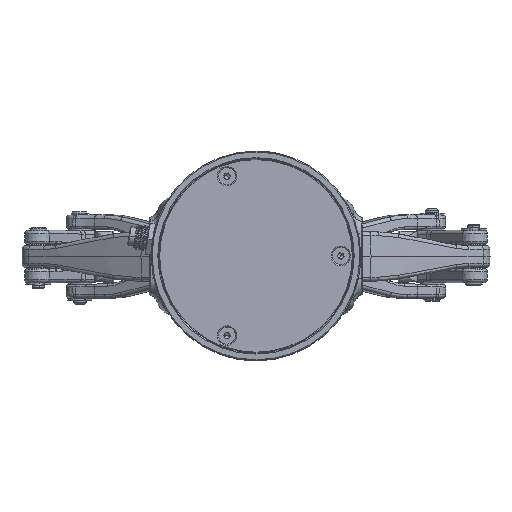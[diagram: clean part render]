
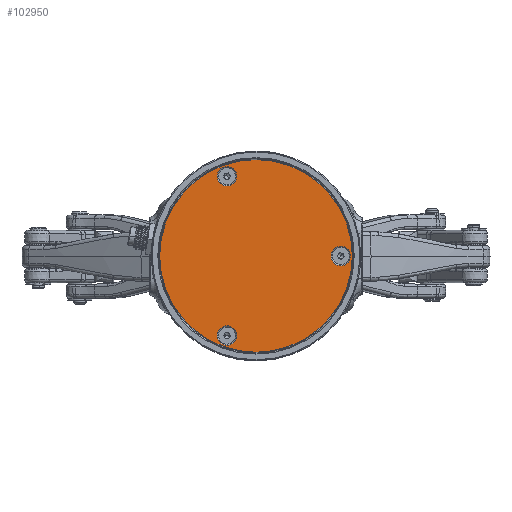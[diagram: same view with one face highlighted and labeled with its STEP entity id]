
A CAD part, top view. The second image highlights one B-rep face of the part: STEP entity #102950.
In plain terms, the highlighted planar face has unit normal (0, 0, 1) as drawn and (0, 1, 0) by its records, which use the part's own axes.
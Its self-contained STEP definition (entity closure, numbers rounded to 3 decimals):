
#102683=CARTESIAN_POINT('',(0.,1.8,0.));
#102684=DIRECTION('',(0.,1.,0.));
#102685=DIRECTION('',(0.,0.,-1.));
#102686=AXIS2_PLACEMENT_3D('',#102683,#102684,#102685);
#102688=CARTESIAN_POINT('',(0.,1.8,0.));
#102689=DIRECTION('',(0.,1.,0.));
#102690=DIRECTION('',(0.,0.,1.));
#102691=AXIS2_PLACEMENT_3D('',#102688,#102689,#102690);
#102693=CARTESIAN_POINT('',(-27.5,1.8,0.));
#102694=DIRECTION('',(0.,-1.,0.));
#102695=DIRECTION('',(0.,0.,-1.));
#102696=AXIS2_PLACEMENT_3D('',#102693,#102694,#102695);
#102698=CARTESIAN_POINT('',(-27.5,1.8,0.));
#102699=DIRECTION('',(0.,-1.,0.));
#102700=DIRECTION('',(0.,0.,1.));
#102701=AXIS2_PLACEMENT_3D('',#102698,#102699,#102700);
#102703=CARTESIAN_POINT('',(9.406,1.8,25.842));
#102704=DIRECTION('',(0.,-1.,0.));
#102705=DIRECTION('',(0.,0.,-1.));
#102706=AXIS2_PLACEMENT_3D('',#102703,#102704,#102705);
#102708=CARTESIAN_POINT('',(9.406,1.8,25.842));
#102709=DIRECTION('',(0.,-1.,0.));
#102710=DIRECTION('',(0.,0.,1.));
#102711=AXIS2_PLACEMENT_3D('',#102708,#102709,#102710);
#102713=CARTESIAN_POINT('',(9.406,1.8,-25.842));
#102714=DIRECTION('',(0.,-1.,0.));
#102715=DIRECTION('',(0.,0.,-1.));
#102716=AXIS2_PLACEMENT_3D('',#102713,#102714,#102715);
#102718=CARTESIAN_POINT('',(9.406,1.8,-25.842));
#102719=DIRECTION('',(0.,-1.,0.));
#102720=DIRECTION('',(0.,0.,1.));
#102721=AXIS2_PLACEMENT_3D('',#102718,#102719,#102720);
#102791=CARTESIAN_POINT('',(9.406,1.8,22.692));
#102792=VERTEX_POINT('',#102791);
#102795=CARTESIAN_POINT('',(0.,1.8,31.25));
#102796=CARTESIAN_POINT('',(0.,1.8,-31.25));
#102797=VERTEX_POINT('',#102795);
#102798=VERTEX_POINT('',#102796);
#102801=CARTESIAN_POINT('',(9.406,1.8,-22.692));
#102802=CARTESIAN_POINT('',(9.406,1.8,-28.992));
#102803=VERTEX_POINT('',#102801);
#102804=VERTEX_POINT('',#102802);
#102805=CARTESIAN_POINT('',(9.406,1.8,28.992));
#102806=VERTEX_POINT('',#102805);
#102811=CARTESIAN_POINT('',(-27.5,1.8,3.15));
#102812=CARTESIAN_POINT('',(-27.5,1.8,-3.15));
#102813=VERTEX_POINT('',#102811);
#102814=VERTEX_POINT('',#102812);
#102925=CARTESIAN_POINT('',(0.,1.8,0.));
#102926=DIRECTION('',(0.,1.,0.));
#102927=DIRECTION('',(0.,0.,1.));
#102928=AXIS2_PLACEMENT_3D('',#102925,#102926,#102927);
#102929=PLANE('',#102928);
#102930=ORIENTED_EDGE('',*,*,#102907,.F.);
#102931=ORIENTED_EDGE('',*,*,#102917,.F.);
#102932=EDGE_LOOP('',(#102930,#102931));
#102933=FACE_OUTER_BOUND('',#102932,.F.);
#102935=ORIENTED_EDGE('',*,*,#102934,.F.);
#102937=ORIENTED_EDGE('',*,*,#102936,.F.);
#102938=EDGE_LOOP('',(#102935,#102937));
#102939=FACE_BOUND('',#102938,.F.);
#102940=ORIENTED_EDGE('',*,*,#102830,.F.);
#102941=ORIENTED_EDGE('',*,*,#102847,.F.);
#102942=EDGE_LOOP('',(#102940,#102941));
#102943=FACE_BOUND('',#102942,.F.);
#102945=ORIENTED_EDGE('',*,*,#102944,.F.);
#102947=ORIENTED_EDGE('',*,*,#102946,.F.);
#102948=EDGE_LOOP('',(#102945,#102947));
#102949=FACE_BOUND('',#102948,.F.);
#102950=ADVANCED_FACE('',(#102933,#102939,#102943,#102949),#102929,.T.);
#102687=CIRCLE('',#102686,31.25);
#102692=CIRCLE('',#102691,31.25);
#102697=CIRCLE('',#102696,3.15);
#102702=CIRCLE('',#102701,3.15);
#102707=CIRCLE('',#102706,3.15);
#102712=CIRCLE('',#102711,3.15);
#102717=CIRCLE('',#102716,3.15);
#102722=CIRCLE('',#102721,3.15);
#102830=EDGE_CURVE('',#102792,#102806,#102707,.T.);
#102847=EDGE_CURVE('',#102806,#102792,#102712,.T.);
#102907=EDGE_CURVE('',#102798,#102797,#102687,.T.);
#102917=EDGE_CURVE('',#102797,#102798,#102692,.T.);
#102934=EDGE_CURVE('',#102814,#102813,#102697,.T.);
#102936=EDGE_CURVE('',#102813,#102814,#102702,.T.);
#102944=EDGE_CURVE('',#102804,#102803,#102717,.T.);
#102946=EDGE_CURVE('',#102803,#102804,#102722,.T.);
